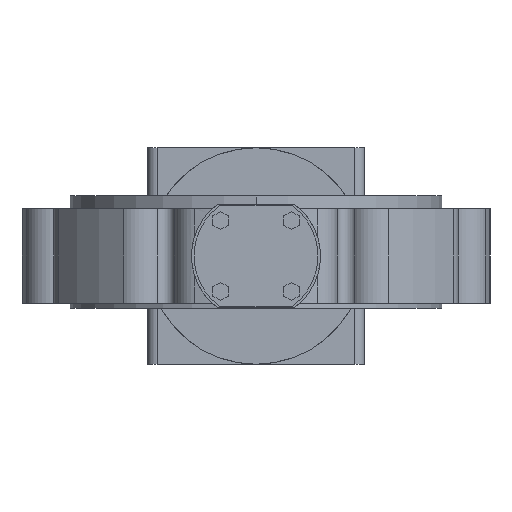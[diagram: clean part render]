
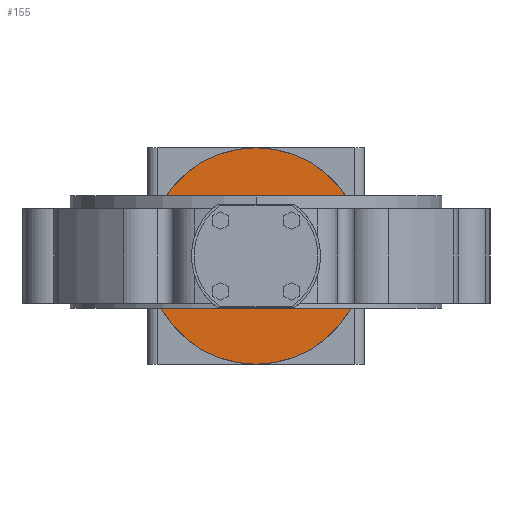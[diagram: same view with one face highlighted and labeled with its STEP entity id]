
A CAD part, front view. The second image highlights one B-rep face of the part: STEP entity #155.
In plain terms, the highlighted planar face has unit normal (0, -1, 0).
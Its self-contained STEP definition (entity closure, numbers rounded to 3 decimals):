
#155 = ADVANCED_FACE( '', ( #519, #520 ), #521, .T. );
#519 = FACE_OUTER_BOUND( '', #1119, .T. );
#520 = FACE_BOUND( '', #1120, .T. );
#521 = PLANE( '', #1121 );
#1119 = EDGE_LOOP( '', ( #2182, #2183 ) );
#1120 = EDGE_LOOP( '', ( #2184, #2185, #2186, #2187 ) );
#1121 = AXIS2_PLACEMENT_3D( '', #2188, #2189, #2190 );
#2182 = ORIENTED_EDGE( '', *, *, #3936, .F. );
#2183 = ORIENTED_EDGE( '', *, *, #4079, .F. );
#2184 = ORIENTED_EDGE( '', *, *, #4080, .T. );
#2185 = ORIENTED_EDGE( '', *, *, #4081, .T. );
#2186 = ORIENTED_EDGE( '', *, *, #4082, .T. );
#2187 = ORIENTED_EDGE( '', *, *, #4083, .T. );
#2188 = CARTESIAN_POINT( '', ( 65.5, 402., 0. ) );
#2189 = DIRECTION( '', ( 0., -1., 0. ) );
#2190 = DIRECTION( '', ( -1., 0., 0. ) );
#3936 = EDGE_CURVE( '', #4792, #4795, #4796, .T. );
#4079 = EDGE_CURVE( '', #4795, #4792, #5029, .T. );
#4080 = EDGE_CURVE( '', #5030, #5031, #5032, .T. );
#4081 = EDGE_CURVE( '', #5031, #5033, #5034, .T. );
#4082 = EDGE_CURVE( '', #5033, #5035, #5036, .T. );
#4083 = EDGE_CURVE( '', #5035, #5030, #5037, .T. );
#4792 = VERTEX_POINT( '', #6416 );
#4795 = VERTEX_POINT( '', #6420 );
#4796 = CIRCLE( '', #6421, 110. );
#5029 = CIRCLE( '', #6957, 110. );
#5030 = VERTEX_POINT( '', #6958 );
#5031 = VERTEX_POINT( '', #6959 );
#5032 = LINE( '', #6960, #6961 );
#5033 = VERTEX_POINT( '', #6962 );
#5034 = LINE( '', #6963, #6964 );
#5035 = VERTEX_POINT( '', #6965 );
#5036 = LINE( '', #6966, #6967 );
#5037 = LINE( '', #6968, #6969 );
#6416 = CARTESIAN_POINT( '', ( 110., 402., 0. ) );
#6420 = CARTESIAN_POINT( '', ( -110., 402., 0. ) );
#6421 = AXIS2_PLACEMENT_3D( '', #8302, #8303, #8304 );
#6957 = AXIS2_PLACEMENT_3D( '', #8566, #8567, #8568 );
#6958 = CARTESIAN_POINT( '', ( -51., 402., 42. ) );
#6959 = CARTESIAN_POINT( '', ( 51., 402., 42. ) );
#6960 = CARTESIAN_POINT( '', ( -51., 402., 42. ) );
#6961 = VECTOR( '', #8569, 1. );
#6962 = CARTESIAN_POINT( '', ( 51., 402., -42. ) );
#6963 = CARTESIAN_POINT( '', ( 51., 402., 42. ) );
#6964 = VECTOR( '', #8570, 1. );
#6965 = CARTESIAN_POINT( '', ( -51., 402., -42. ) );
#6966 = CARTESIAN_POINT( '', ( 51., 402., -42. ) );
#6967 = VECTOR( '', #8571, 1. );
#6968 = CARTESIAN_POINT( '', ( -51., 402., -42. ) );
#6969 = VECTOR( '', #8572, 1. );
#8302 = CARTESIAN_POINT( '', ( 0., 402., 0. ) );
#8303 = DIRECTION( '', ( 0., 1., 0. ) );
#8304 = DIRECTION( '', ( 1., 0., 0. ) );
#8566 = CARTESIAN_POINT( '', ( 0., 402., 0. ) );
#8567 = DIRECTION( '', ( 0., 1., 0. ) );
#8568 = DIRECTION( '', ( 1., 0., 0. ) );
#8569 = DIRECTION( '', ( 1., 0., 0. ) );
#8570 = DIRECTION( '', ( 0., 0., -1. ) );
#8571 = DIRECTION( '', ( -1., 0., 0. ) );
#8572 = DIRECTION( '', ( 0., 0., 1. ) );
